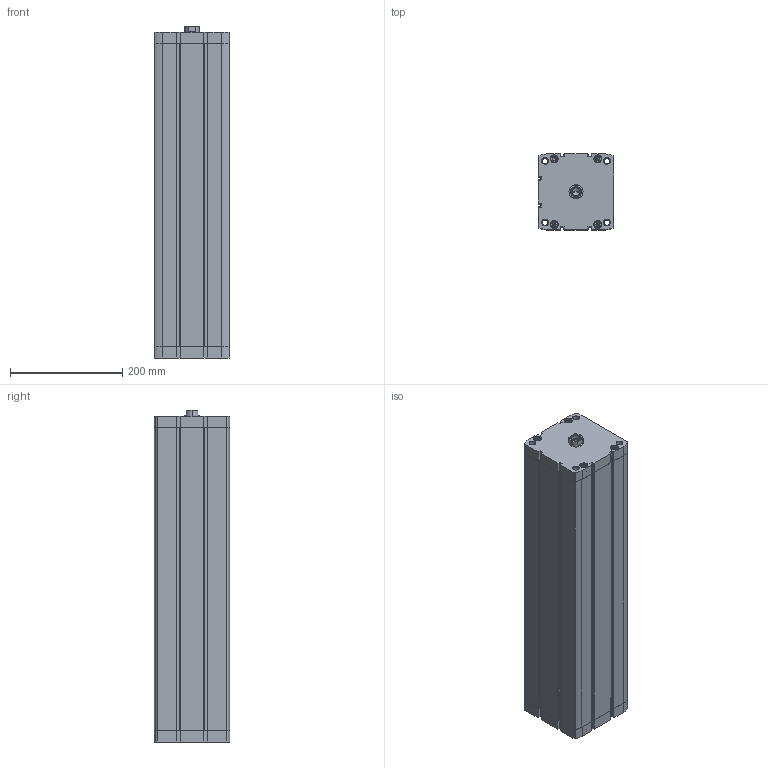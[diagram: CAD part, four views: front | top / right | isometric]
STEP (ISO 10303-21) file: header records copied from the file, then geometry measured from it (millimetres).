
FILE_DESCRIPTION (( 'STEP AP203' ), '1' );
FILE_NAME ('CCN125-500F.STEP', '2020-06-05T19:32:19', ( '' ), ( '' ), 'SwSTEP 2.0', 'SolidWorks 2019', '' );
FILE_SCHEMA (( 'CONFIG_CONTROL_DESIGN' ));
Length unit declared in the file: millimetre
Products named in the file (1): CCN125-500F
Bounding box: 134.6 x 134.6 x 592 mm (x, y, z)
Volume: 4178255 mm3; surface area: 779040.9 mm2
Topology: 2 solids, 2 shells, 535 faces, 1370 edges, 861 vertices
Faces by surface type: plane 267, cylinder 194, cone 74
Entity records: 17215 total; most frequent: CARTESIAN_POINT 3931, DIRECTION 2876, ORIENTED_EDGE 2704, EDGE_CURVE 1352, AXIS2_PLACEMENT_3D 1054, VERTEX_POINT 861, LINE 768, VECTOR 768
